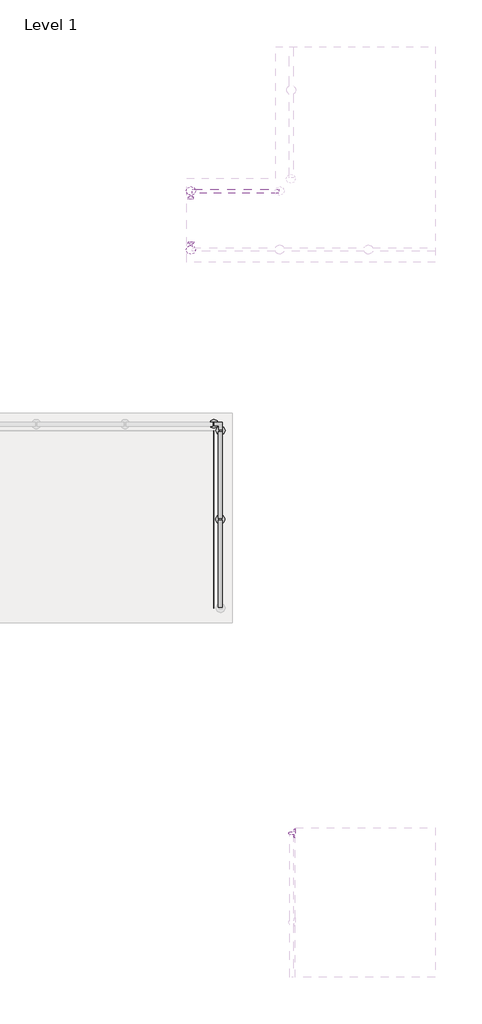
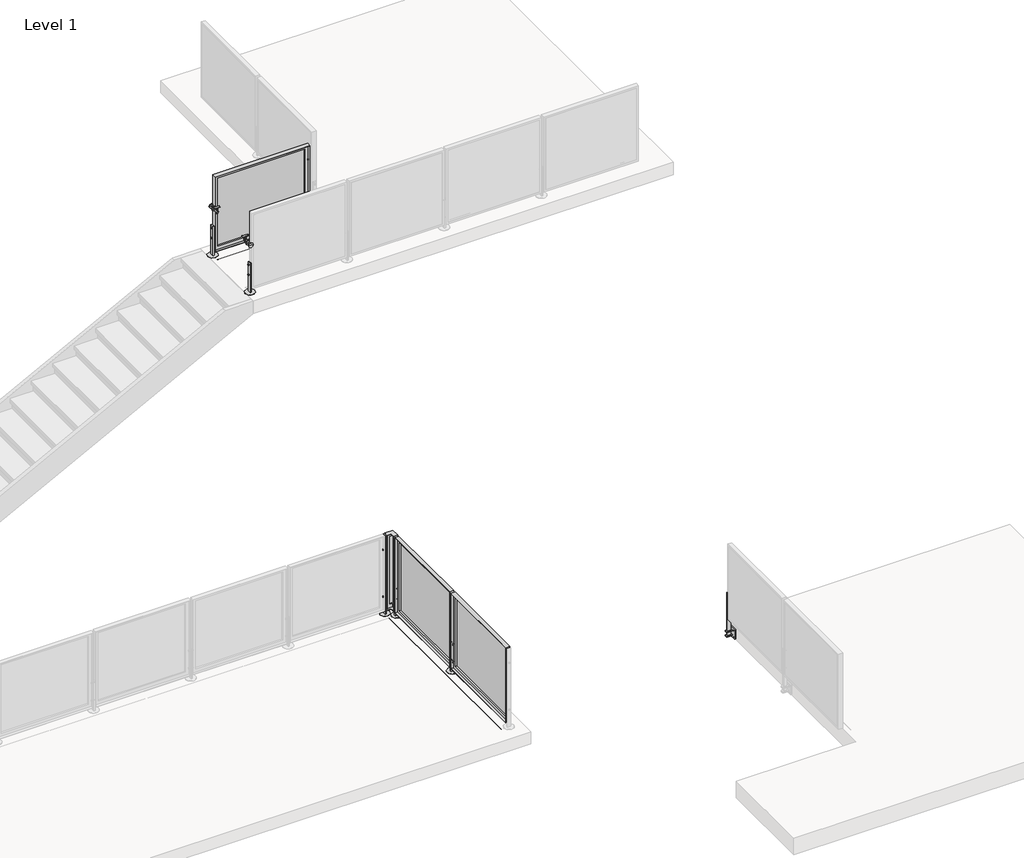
# One storey, part 30 of 37: 7 proxies, 3 railings.
"""IFC4 building model written with IfcOpenShell, lengths in millimetres."""

from ifc_helpers import new_model, si_unit, point, frame, frame_2d, origin, origin_with_axes, place, context, project, spatial, polyline, circle_curve, trimmed, segment, composite_curve, outline, extrude, faceted_brep, transform, mapped, element, save
from ifc_brep_helpers import plane_surface, cylinder_surface, advanced_brep
from components import baluster_end_post_viva_frame_top_mount_933f940f, baluster_end_post_viva_frame_top_mount_933cdb12, baluster_end_post_viva_frame_top_mount_welded_fascia_mount_f3869cb3, baluster_end_post_viva_frame_top_mount_stairs_5fb22de0, baluster_corner_panel_viva_frame_inside_standard_88f3c48e

model = new_model("IFC4")

# Units and contexts
model_context = context("Model", 3, world=origin())
ifc_project = project(units=[si_unit("LENGTHUNIT", "METRE", prefix="MILLI")], contexts=[model_context])

# Site, building, storey
site = spatial("IfcSite", under=ifc_project)
building = spatial("IfcBuilding", under=site)
storey = spatial("IfcBuildingStorey", under=building, Name="Level 1", Elevation=0.0)

# Proxies
placement = place(None, origin())
baluster_end_post_viva_frame_top_mount_shape = baluster_end_post_viva_frame_top_mount_933f940f(model_context)
element("IfcBuildingElementProxy", 1, Name="Baluster-End-Post-VIVA-FRAME-Top Mount : CORED INTO CONCRETE_TOP MOUNT FOLD_STRAIGHT", ObjectType="Baluster-End-Post-VIVA-FRAME-Top Mount : CORED INTO CONCRETE_TOP MOUNT FOLD_STRAIGHT", at=placement, inside=storey, context=model_context, shape_type="MappedRepresentation", body=[
    mapped(baluster_end_post_viva_frame_top_mount_shape, transform((-32693.4518242, 5919.2344262, -0.508), x_axis=(0.0, 1.0, 0.0), y_axis=(-1.0, 0.0, 0.0), z_axis=(0.0, 0.0, 1.0))),
])
element("IfcBuildingElementProxy", 2, Name="Baluster-End-Post-VIVA-FRAME-Top Mount : CORED INTO CONCRETE_TOP MOUNT FOLD_STRAIGHT", ObjectType="Baluster-End-Post-VIVA-FRAME-Top Mount : CORED INTO CONCRETE_TOP MOUNT FOLD_STRAIGHT", at=placement, inside=storey, context=model_context, shape_type="MappedRepresentation", body=[
    mapped(baluster_end_post_viva_frame_top_mount_shape, transform((-33016.8813244, 8605.5937722, 3047.492), x_axis=(1.0, 0.0, 0.0), y_axis=(0.0, 1.0, 0.0), z_axis=(0.0, 0.0, 1.0))),
])
element("IfcBuildingElementProxy", 3, Name="Baluster-End-Post-VIVA-FRAME-Top Mount : CORED INTO CONCRETE_TOP MOUNT FOLD_STRAIGHT", ObjectType="Baluster-End-Post-VIVA-FRAME-Top Mount : CORED INTO CONCRETE_TOP MOUNT FOLD_STRAIGHT", at=placement, inside=storey, context=model_context, shape_type="MappedRepresentation", body=[
    mapped(baluster_end_post_viva_frame_top_mount_shape, transform((-33016.8813244, 9246.7937722, 3047.492), x_axis=(-1.0, 0.0, 0.0), y_axis=(0.0, -1.0, 0.0), z_axis=(0.0, 0.0, 1.0))),
])
baluster_end_post_viva_frame_top_mount_2_shape = baluster_end_post_viva_frame_top_mount_933cdb12(model_context)
element("IfcBuildingElementProxy", 4, Name="Baluster-End-Post-VIVA-FRAME-Top Mount : CORED INTO CONCRETE_TOP MOUNT FOLD_STRAIGHT", ObjectType="Baluster-End-Post-VIVA-FRAME-Top Mount : CORED INTO CONCRETE_TOP MOUNT FOLD_STRAIGHT", at=placement, inside=storey, context=model_context, shape_type="MappedRepresentation", body=[
    mapped(baluster_end_post_viva_frame_top_mount_2_shape, transform((-32689.643347, 5915.4866335, -0.508), x_axis=(-1.0, 0.0, 0.0), y_axis=(0.0, -1.0, 0.0), z_axis=(0.0, 0.0, 1.0))),
])
baluster_end_post_viva_frame_top_mount_welded_fascia_mount_shape = baluster_end_post_viva_frame_top_mount_welded_fascia_mount_f3869cb3(model_context)
element("IfcBuildingElementProxy", 5, Name="Baluster-End-Post-VIVA-FRAME-Top Mount : WELDED Fascia MOUNT FOLD_STRAIGHT", ObjectType="Baluster-End-Post-VIVA-FRAME-Top Mount : WELDED Fascia MOUNT FOLD_STRAIGHT", at=placement, inside=storey, context=model_context, shape_type="MappedRepresentation", body=[
    mapped(baluster_end_post_viva_frame_top_mount_welded_fascia_mount_shape, transform((-31448.8776401, 156.9687275, 3047.492), x_axis=(0.0, -1.0, 0.0), y_axis=(1.0, 0.0, 0.0), z_axis=(0.0, 0.0, 1.0))),
])
baluster_end_post_viva_frame_top_mount_stairs_shape = baluster_end_post_viva_frame_top_mount_stairs_5fb22de0(model_context)
element("IfcBuildingElementProxy", 6, Name="Baluster-End-Post-VIVA-FRAME-Top Mount Stairs : CORED INTO CONCRETE_TOP MOUNT FRAME_STAIR", ObjectType="Baluster-End-Post-VIVA-FRAME-Top Mount Stairs : CORED INTO CONCRETE_TOP MOUNT FRAME_STAIR", at=placement, inside=storey, context=model_context, shape_type="MappedRepresentation", body=[
    mapped(baluster_end_post_viva_frame_top_mount_stairs_shape, transform((-33016.8813244, 8605.5937722, 3784.092), x_axis=(1.0, 0.0, 0.0), y_axis=(0.0, 1.0, 0.0), z_axis=(0.0, 0.0, 1.0))),
])
element("IfcBuildingElementProxy", 7, Name="Baluster-End-Post-VIVA-FRAME-Top Mount Stairs : CORED INTO CONCRETE_TOP MOUNT FRAME_STAIR", ObjectType="Baluster-End-Post-VIVA-FRAME-Top Mount Stairs : CORED INTO CONCRETE_TOP MOUNT FRAME_STAIR", at=placement, inside=storey, context=model_context, shape_type="MappedRepresentation", body=[
    mapped(baluster_end_post_viva_frame_top_mount_stairs_shape, transform((-33016.8813244, 9246.7937722, 3784.092), x_axis=(-1.0, 0.0, 0.0), y_axis=(0.0, -1.0, 0.0), z_axis=(0.0, 0.0, 1.0))),
])

# Railings
baluster_corner_panel_viva_frame_inside_standard_shape = baluster_corner_panel_viva_frame_inside_standard_88f3c48e(model_context)
element("IfcRailing", 8, ObjectType="Baluster-Corner-Panel-VIVA-FRAME : Inside_Standard", at=placement, inside=storey, context=model_context, shape_type="MappedRepresentation", body=[
    mapped(baluster_corner_panel_viva_frame_inside_standard_shape, transform((-32570.6414242, 6038.2970335, -25.654), x_axis=(-1.0, 0.0, 0.0), y_axis=(0.0, -1.0, 0.0), z_axis=(0.0, 0.0, 1.0))),
])
element("IfcRailing", 9, ObjectType="Metal-Panel-VIVA-FRAME-Top_Core-Straight", at=placement, inside=storey, context=model_context, shape_type="SolidModel", body=[
    extrude(outline(composite_curve([segment(trimmed(circle_curve(frame_2d((-0.254, -32693.4518242)), 0.254), [point((-0.254, -32693.7058242))], [point((-0.254, -32693.1978242))], False, "CARTESIAN"), True, "CONTINUOUS"), segment(trimmed(circle_curve(frame_2d((-0.254, -32693.4518242)), 0.254), [point((-0.254, -32693.1978242))], [point((-0.254, -32693.7058242))], False, "CARTESIAN"), True, "CONTINUOUS")], self_intersect=False)), frame((0.0, 3379.2344262, 0.0), z_axis=(0.0, 1.0, 0.0), x_axis=(0.0, 0.0, 1.0)), (0.0, 0.0, 1.0), 2540.0),
    extrude(outline(composite_curve([segment(trimmed(circle_curve(frame_2d((-0.254, -32693.4518242)), 0.254), [point((-0.254, -32693.7058242))], [point((-0.254, -32693.1978242))], False, "CARTESIAN"), True, "CONTINUOUS"), segment(trimmed(circle_curve(frame_2d((-0.254, -32693.4518242)), 0.254), [point((-0.254, -32693.1978242))], [point((-0.254, -32693.7058242))], False, "CARTESIAN"), True, "CONTINUOUS")], self_intersect=False)), frame((0.0, 3379.2344262, 0.0), z_axis=(0.0, 1.0, 0.0), x_axis=(0.0, 0.0, 1.0)), (0.0, 0.0, 1.0), 2540.0),
    extrude(outline(polyline([(-32570.6414242, 4608.4079693), (-32570.6414242, 3420.0608831), (-32573.6414242, 3420.0608831), (-32573.6414242, 4608.4079693), (-32570.6414242, 4608.4079693)])), frame((0.0, 0.0, 76.1959569), z_axis=(0.0, 0.0, 1.0), x_axis=(1.0, 0.0, 0.0)), (0.0, 0.0, 1.0), 990.5826861),
    faceted_brep([(-32570.6414242, 4633.8079693, 1092.1786431), (-32570.6414242, 3394.6608831, 1092.1786431), (-32570.6414242, 3394.6608831, 50.7959569), (-32570.6414242, 4633.8079693, 50.7959569), (-32570.6414242, 4608.4079693, 1066.7786431), (-32570.6414242, 4608.4079693, 76.1959569), (-32570.6414242, 3420.0608831, 76.1959569), (-32570.6414242, 3420.0608831, 1066.7786431), (-32573.6414242, 4608.4079693, 76.1959569), (-32573.6414242, 3420.0608831, 76.1959569), (-32573.6414242, 3420.0608831, 1066.7786431), (-32573.6414242, 4608.4079693, 1066.7786431), (-32624.4414242, 4627.8135693, 56.7903569), (-32624.4414242, 3400.6552831, 56.7903569), (-32593.6312242, 3400.6552831, 56.7903569), (-32593.6312242, 4627.8135693, 56.7903569), (-32624.4414242, 3400.6552831, 1086.1842431), (-32593.6312242, 3400.6552831, 1086.1842431), (-32593.6312242, 4627.8135693, 1086.1842431), (-32624.4414242, 4627.8135693, 1086.1842431), (-32624.4414242, 3394.6608831, 50.7959569), (-32624.4414242, 3394.6608831, 1092.1786431), (-32624.4414242, 4633.8079693, 1092.1786431), (-32624.4414242, 4633.8079693, 50.7959569), (-32573.6414242, 4583.0079693, 1041.3786431), (-32573.6414242, 4583.0079693, 101.5959569), (-32573.6414242, 3445.4608831, 101.5959569), (-32573.6414242, 3445.4608831, 1041.3786431), (-32593.6312242, 3445.4608831, 101.5959569), (-32593.6312242, 4583.0079693, 101.5959569), (-32593.6312242, 4583.0079693, 1041.3786431), (-32593.6312242, 3445.4608831, 1041.3786431)], [[[0, 1, 2, 3], [4, 5, 6, 7]], [[5, 8, 9, 6]], [[6, 9, 10, 7]], [[7, 10, 11, 4]], [[4, 11, 8, 5]], [[12, 13, 14, 15]], [[13, 16, 17, 14]], [[15, 18, 19, 12]], [[20, 21, 22, 23], [12, 19, 16, 13]], [[23, 22, 0, 3]], [[23, 3, 2, 20]], [[2, 1, 21, 20]], [[22, 21, 1, 0]], [[11, 10, 9, 8], [24, 25, 26, 27]], [[14, 17, 18, 15], [28, 29, 30, 31]], [[18, 17, 16, 19]], [[27, 31, 30, 24]], [[26, 28, 31, 27]], [[25, 29, 28, 26]], [[24, 30, 29, 25]]]),
    extrude(outline(composite_curve([segment(trimmed(circle_curve(frame_2d((-32597.5414242, 4649.2344262)), 65.8876), [point((-32531.6538242, 4649.2344262))], [point((-32663.4290242, 4649.2344262))], False, "CARTESIAN"), True, "CONTINUOUS"), segment(trimmed(circle_curve(frame_2d((-32597.5414242, 4649.2344262)), 65.8876), [point((-32663.4290242, 4649.2344262))], [point((-32531.6538242, 4649.2344262))], False, "CARTESIAN"), True, "CONTINUOUS")], self_intersect=False)), origin_with_axes(), (0.0, 0.0, 1.0), 2.9821299),
    advanced_brep(
    [(-32597.5414242, 4675.4218262, 130.1496), (-32597.5414242, 4675.4218262, 139.7), (-32597.5414242, 4675.4218262, 149.2504), (-32597.5414242, 4670.6466262, 130.1496), (-32597.5414242, 4670.6466262, 149.2504), (-32597.5414242, 4670.6466262, 134.9248), (-32597.5414242, 4670.6466262, 144.4752), (-32597.5414242, 4627.8222262, 134.9248), (-32597.5414242, 4627.8222262, 144.4752), (-32597.5414242, 4627.8222262, 130.1496), (-32597.5414242, 4627.8222262, 149.2504), (-32597.5414242, 4623.0470262, 130.1496), (-32597.5414242, 4623.0470262, 149.2504), (-32597.5414242, 4623.0470262, 139.7)],
    [
        (0, 1),
        (1, 2),
        (2, 0, circle_curve(frame((-32597.5414242, 4675.4218262, 139.7), z_axis=(0.0, 1.0, 0.0), x_axis=(0.0, 0.0, 1.0)), 9.5504)),
        (0, 2, circle_curve(frame((-32597.5414242, 4675.4218262, 139.7), z_axis=(0.0, 1.0, 0.0), x_axis=(0.0, 0.0, 1.0)), 9.5504)),
        (3, 0),
        (2, 4),
        (4, 3, circle_curve(frame((-32597.5414242, 4670.6466262, 139.7), z_axis=(0.0, 1.0, 0.0), x_axis=(0.0, 0.0, 1.0)), 9.5504)),
        (3, 4, circle_curve(frame((-32597.5414242, 4670.6466262, 139.7), z_axis=(0.0, 1.0, 0.0), x_axis=(0.0, 0.0, 1.0)), 9.5504)),
        (5, 3),
        (4, 6),
        (6, 5, circle_curve(frame((-32597.5414242, 4670.6466262, 139.7), z_axis=(0.0, 1.0, 0.0), x_axis=(0.0, 0.0, 1.0)), 4.7752)),
        (5, 6, circle_curve(frame((-32597.5414242, 4670.6466262, 139.7), z_axis=(0.0, 1.0, 0.0), x_axis=(0.0, 0.0, 1.0)), 4.7752)),
        (7, 5),
        (6, 8),
        (8, 7, circle_curve(frame((-32597.5414242, 4627.8222262, 139.7), z_axis=(0.0, 1.0, 0.0), x_axis=(0.0, 0.0, 1.0)), 4.7752)),
        (7, 8, circle_curve(frame((-32597.5414242, 4627.8222262, 139.7), z_axis=(0.0, 1.0, 0.0), x_axis=(0.0, 0.0, 1.0)), 4.7752)),
        (9, 7),
        (8, 10),
        (10, 9, circle_curve(frame((-32597.5414242, 4627.8222262, 139.7), z_axis=(0.0, 1.0, 0.0), x_axis=(0.0, 0.0, 1.0)), 9.5504)),
        (9, 10, circle_curve(frame((-32597.5414242, 4627.8222262, 139.7), z_axis=(0.0, 1.0, 0.0), x_axis=(0.0, 0.0, 1.0)), 9.5504)),
        (11, 9),
        (10, 12),
        (12, 11, circle_curve(frame((-32597.5414242, 4623.0470262, 139.7), z_axis=(0.0, 1.0, 0.0), x_axis=(0.0, 0.0, 1.0)), 9.5504)),
        (11, 12, circle_curve(frame((-32597.5414242, 4623.0470262, 139.7), z_axis=(0.0, 1.0, 0.0), x_axis=(0.0, 0.0, 1.0)), 9.5504)),
        (13, 11),
        (12, 13),
    ],
    [
        plane_surface(frame((-32597.5414242, 4675.4218262, 139.7), z_axis=(0.0, 1.0, 0.0), x_axis=(0.0, 0.0, 1.0))),
        cylinder_surface(frame((-32597.5414242, 8067.0021833, 139.7), z_axis=(0.0, -1.0, 0.0), x_axis=(0.0, 0.0, 1.0)), 9.5504),
        plane_surface(frame((-32597.5414242, 4670.6466262, 139.7), z_axis=(0.0, -1.0, 0.0), x_axis=(0.0, 0.0, 1.0))),
        cylinder_surface(frame((-32597.5414242, 8067.0021833, 139.7), z_axis=(0.0, -1.0, 0.0), x_axis=(0.0, 0.0, 1.0)), 4.7752),
        plane_surface(frame((-32597.5414242, 4627.8222262, 139.7), z_axis=(0.0, 1.0, 0.0), x_axis=(0.0, 0.0, 1.0))),
        plane_surface(frame((-32597.5414242, 4623.0470262, 139.7), z_axis=(0.0, -1.0, 0.0), x_axis=(0.0, 0.0, 1.0))),
    ],
    [
        (0, [[1, 2, 3]]),
        (0, [[-2, -1, 4]]),
        (1, [[5, -3, 6, 7]]),
        (1, [[-6, -4, -5, 8]]),
        (2, [[9, -7, 10, 11]]),
        (2, [[-10, -8, -9, 12]]),
        (3, [[13, -11, 14, 15]]),
        (3, [[-14, -12, -13, 16]]),
        (4, [[17, -15, 18, 19]]),
        (4, [[-18, -16, -17, 20]]),
        (1, [[21, -19, 22, 23]]),
        (1, [[-22, -20, -21, 24]]),
        (5, [[25, -23, 26]]),
        (5, [[-26, -24, -25]]),
    ],
),
    advanced_brep(
    [(-32597.5414242, 4675.4218262, 371.4496), (-32597.5414242, 4675.4218262, 381.0), (-32597.5414242, 4675.4218262, 390.5504), (-32597.5414242, 4670.6466262, 371.4496), (-32597.5414242, 4670.6466262, 390.5504), (-32597.5414242, 4670.6466262, 376.2248), (-32597.5414242, 4670.6466262, 385.7752), (-32597.5414242, 4627.8222262, 376.2248), (-32597.5414242, 4627.8222262, 385.7752), (-32597.5414242, 4627.8222262, 371.4496), (-32597.5414242, 4627.8222262, 390.5504), (-32597.5414242, 4623.0470262, 371.4496), (-32597.5414242, 4623.0470262, 390.5504), (-32597.5414242, 4623.0470262, 381.0)],
    [
        (0, 1),
        (1, 2),
        (2, 0, circle_curve(frame((-32597.5414242, 4675.4218262, 381.0), z_axis=(0.0, 1.0, 0.0), x_axis=(0.0, 0.0, 1.0)), 9.5504)),
        (0, 2, circle_curve(frame((-32597.5414242, 4675.4218262, 381.0), z_axis=(0.0, 1.0, 0.0), x_axis=(0.0, 0.0, 1.0)), 9.5504)),
        (3, 0),
        (2, 4),
        (4, 3, circle_curve(frame((-32597.5414242, 4670.6466262, 381.0), z_axis=(0.0, 1.0, 0.0), x_axis=(0.0, 0.0, 1.0)), 9.5504)),
        (3, 4, circle_curve(frame((-32597.5414242, 4670.6466262, 381.0), z_axis=(0.0, 1.0, 0.0), x_axis=(0.0, 0.0, 1.0)), 9.5504)),
        (5, 3),
        (4, 6),
        (6, 5, circle_curve(frame((-32597.5414242, 4670.6466262, 381.0), z_axis=(0.0, 1.0, 0.0), x_axis=(0.0, 0.0, 1.0)), 4.7752)),
        (5, 6, circle_curve(frame((-32597.5414242, 4670.6466262, 381.0), z_axis=(0.0, 1.0, 0.0), x_axis=(0.0, 0.0, 1.0)), 4.7752)),
        (7, 5),
        (6, 8),
        (8, 7, circle_curve(frame((-32597.5414242, 4627.8222262, 381.0), z_axis=(0.0, 1.0, 0.0), x_axis=(0.0, 0.0, 1.0)), 4.7752)),
        (7, 8, circle_curve(frame((-32597.5414242, 4627.8222262, 381.0), z_axis=(0.0, 1.0, 0.0), x_axis=(0.0, 0.0, 1.0)), 4.7752)),
        (9, 7),
        (8, 10),
        (10, 9, circle_curve(frame((-32597.5414242, 4627.8222262, 381.0), z_axis=(0.0, 1.0, 0.0), x_axis=(0.0, 0.0, 1.0)), 9.5504)),
        (9, 10, circle_curve(frame((-32597.5414242, 4627.8222262, 381.0), z_axis=(0.0, 1.0, 0.0), x_axis=(0.0, 0.0, 1.0)), 9.5504)),
        (11, 9),
        (10, 12),
        (12, 11, circle_curve(frame((-32597.5414242, 4623.0470262, 381.0), z_axis=(0.0, 1.0, 0.0), x_axis=(0.0, 0.0, 1.0)), 9.5504)),
        (11, 12, circle_curve(frame((-32597.5414242, 4623.0470262, 381.0), z_axis=(0.0, 1.0, 0.0), x_axis=(0.0, 0.0, 1.0)), 9.5504)),
        (13, 11),
        (12, 13),
    ],
    [
        plane_surface(frame((-32597.5414242, 4675.4218262, 381.0), z_axis=(0.0, 1.0, 0.0), x_axis=(0.0, 0.0, 1.0))),
        cylinder_surface(frame((-32597.5414242, 8067.0021833, 381.0), z_axis=(0.0, -1.0, 0.0), x_axis=(0.0, 0.0, 1.0)), 9.5504),
        plane_surface(frame((-32597.5414242, 4670.6466262, 381.0), z_axis=(0.0, -1.0, 0.0), x_axis=(0.0, 0.0, 1.0))),
        cylinder_surface(frame((-32597.5414242, 8067.0021833, 381.0), z_axis=(0.0, -1.0, 0.0), x_axis=(0.0, 0.0, 1.0)), 4.7752),
        plane_surface(frame((-32597.5414242, 4627.8222262, 381.0), z_axis=(0.0, 1.0, 0.0), x_axis=(0.0, 0.0, 1.0))),
        plane_surface(frame((-32597.5414242, 4623.0470262, 381.0), z_axis=(0.0, -1.0, 0.0), x_axis=(0.0, 0.0, 1.0))),
    ],
    [
        (0, [[1, 2, 3]]),
        (0, [[-2, -1, 4]]),
        (1, [[5, -3, 6, 7]]),
        (1, [[-6, -4, -5, 8]]),
        (2, [[9, -7, 10, 11]]),
        (2, [[-10, -8, -9, 12]]),
        (3, [[13, -11, 14, 15]]),
        (3, [[-14, -12, -13, 16]]),
        (4, [[17, -15, 18, 19]]),
        (4, [[-18, -16, -17, 20]]),
        (1, [[21, -19, 22, 23]]),
        (1, [[-22, -20, -21, 24]]),
        (5, [[25, -23, 26]]),
        (5, [[-26, -24, -25]]),
    ],
),
    extrude(outline(polyline([(-32619.7664242, 4657.1740178), (-32575.3164242, 4657.1740178), (-32575.3164242, 4641.2948345), (-32619.7664242, 4641.2948345), (-32619.7664242, 4657.1740178)])), frame((0.0, 0.0, -101.6), z_axis=(0.0, 0.0, 1.0), x_axis=(1.0, 0.0, 0.0)), (0.0, 0.0, 1.0), 508.0),
    extrude(outline(polyline([(-32570.6414242, 5878.4079693), (-32570.6414242, 4690.0608831), (-32573.6414242, 4690.0608831), (-32573.6414242, 5878.4079693), (-32570.6414242, 5878.4079693)])), frame((0.0, 0.0, 76.1959569), z_axis=(0.0, 0.0, 1.0), x_axis=(1.0, 0.0, 0.0)), (0.0, 0.0, 1.0), 990.5826861),
    faceted_brep([(-32570.6414242, 5903.8079693, 1092.1786431), (-32570.6414242, 4664.6608831, 1092.1786431), (-32570.6414242, 4664.6608831, 50.7959569), (-32570.6414242, 5903.8079693, 50.7959569), (-32570.6414242, 5878.4079693, 1066.7786431), (-32570.6414242, 5878.4079693, 76.1959569), (-32570.6414242, 4690.0608831, 76.1959569), (-32570.6414242, 4690.0608831, 1066.7786431), (-32573.6414242, 5878.4079693, 76.1959569), (-32573.6414242, 4690.0608831, 76.1959569), (-32573.6414242, 4690.0608831, 1066.7786431), (-32573.6414242, 5878.4079693, 1066.7786431), (-32624.4414242, 5897.8135693, 56.7903569), (-32624.4414242, 4670.6552831, 56.7903569), (-32593.6312242, 4670.6552831, 56.7903569), (-32593.6312242, 5897.8135693, 56.7903569), (-32624.4414242, 4670.6552831, 1086.1842431), (-32593.6312242, 4670.6552831, 1086.1842431), (-32593.6312242, 5897.8135693, 1086.1842431), (-32624.4414242, 5897.8135693, 1086.1842431), (-32624.4414242, 4664.6608831, 50.7959569), (-32624.4414242, 4664.6608831, 1092.1786431), (-32624.4414242, 5903.8079693, 1092.1786431), (-32624.4414242, 5903.8079693, 50.7959569), (-32573.6414242, 5853.0079693, 1041.3786431), (-32573.6414242, 5853.0079693, 101.5959569), (-32573.6414242, 4715.4608831, 101.5959569), (-32573.6414242, 4715.4608831, 1041.3786431), (-32593.6312242, 4715.4608831, 101.5959569), (-32593.6312242, 5853.0079693, 101.5959569), (-32593.6312242, 5853.0079693, 1041.3786431), (-32593.6312242, 4715.4608831, 1041.3786431)], [[[0, 1, 2, 3], [4, 5, 6, 7]], [[5, 8, 9, 6]], [[6, 9, 10, 7]], [[7, 10, 11, 4]], [[4, 11, 8, 5]], [[12, 13, 14, 15]], [[13, 16, 17, 14]], [[15, 18, 19, 12]], [[20, 21, 22, 23], [12, 19, 16, 13]], [[23, 22, 0, 3]], [[23, 3, 2, 20]], [[2, 1, 21, 20]], [[22, 21, 1, 0]], [[11, 10, 9, 8], [24, 25, 26, 27]], [[14, 17, 18, 15], [28, 29, 30, 31]], [[18, 17, 16, 19]], [[27, 31, 30, 24]], [[26, 28, 31, 27]], [[25, 29, 28, 26]], [[24, 30, 29, 25]]]),
])
element("IfcRailing", 10, ObjectType="Metal-Panel-VIVA-FRAME-Top_Core-Straight", at=placement, inside=storey, context=model_context, shape_type="SolidModel", body=[
    extrude(outline(composite_curve([segment(trimmed(circle_curve(frame_2d((9246.7937722, 3047.746)), 0.254), [point((9246.5397722, 3047.746))], [point((9247.0477722, 3047.746))], False, "CARTESIAN"), True, "CONTINUOUS"), segment(trimmed(circle_curve(frame_2d((9246.7937722, 3047.746)), 0.254), [point((9247.0477722, 3047.746))], [point((9246.5397722, 3047.746))], False, "CARTESIAN"), True, "CONTINUOUS")], self_intersect=False)), frame((-33016.8813244, 0.0, 0.0), z_axis=(1.0, 0.0, 0.0), x_axis=(0.0, 1.0, 0.0)), (0.0, 0.0, 1.0), 1270.0),
    extrude(outline(composite_curve([segment(trimmed(circle_curve(frame_2d((9246.7937722, 3047.746)), 0.254), [point((9246.5397722, 3047.746))], [point((9247.0477722, 3047.746))], False, "CARTESIAN"), True, "CONTINUOUS"), segment(trimmed(circle_curve(frame_2d((9246.7937722, 3047.746)), 0.254), [point((9247.0477722, 3047.746))], [point((9246.5397722, 3047.746))], False, "CARTESIAN"), True, "CONTINUOUS")], self_intersect=False)), frame((-33016.8813244, 0.0, 0.0), z_axis=(1.0, 0.0, 0.0), x_axis=(0.0, 1.0, 0.0)), (0.0, 0.0, 1.0), 1270.0),
    extrude(outline(polyline([(-32976.0548675, 9369.6041722), (-31787.7077814, 9369.6041722), (-31787.7077814, 9366.6041722), (-32976.0548675, 9366.6041722), (-32976.0548675, 9369.6041722)])), frame((0.0, 0.0, 3124.1959569), z_axis=(0.0, 0.0, 1.0), x_axis=(1.0, 0.0, 0.0)), (0.0, 0.0, 1.0), 990.5826861),
    faceted_brep([(-33001.4548675, 9369.6041722, 4140.1786431), (-31762.3077814, 9369.6041722, 4140.1786431), (-31762.3077814, 9369.6041722, 3098.7959569), (-33001.4548675, 9369.6041722, 3098.7959569), (-32976.0548675, 9369.6041722, 4114.7786431), (-32976.0548675, 9369.6041722, 3124.1959569), (-31787.7077814, 9369.6041722, 3124.1959569), (-31787.7077814, 9369.6041722, 4114.7786431), (-32976.0548675, 9366.6041722, 3124.1959569), (-31787.7077814, 9366.6041722, 3124.1959569), (-31787.7077814, 9366.6041722, 4114.7786431), (-32976.0548675, 9366.6041722, 4114.7786431), (-32995.4604675, 9315.8041722, 3104.7903569), (-31768.3021814, 9315.8041722, 3104.7903569), (-31768.3021814, 9346.6143722, 3104.7903569), (-32995.4604675, 9346.6143722, 3104.7903569), (-31768.3021814, 9315.8041722, 4134.1842431), (-31768.3021814, 9346.6143722, 4134.1842431), (-32995.4604675, 9346.6143722, 4134.1842431), (-32995.4604675, 9315.8041722, 4134.1842431), (-31762.3077814, 9315.8041722, 3098.7959569), (-31762.3077814, 9315.8041722, 4140.1786431), (-33001.4548675, 9315.8041722, 4140.1786431), (-33001.4548675, 9315.8041722, 3098.7959569), (-32950.6548675, 9366.6041722, 4089.3786431), (-32950.6548675, 9366.6041722, 3149.5959569), (-31813.1077814, 9366.6041722, 3149.5959569), (-31813.1077814, 9366.6041722, 4089.3786431), (-31813.1077814, 9346.6143722, 3149.5959569), (-32950.6548675, 9346.6143722, 3149.5959569), (-32950.6548675, 9346.6143722, 4089.3786431), (-31813.1077814, 9346.6143722, 4089.3786431)], [[[0, 1, 2, 3], [4, 5, 6, 7]], [[5, 8, 9, 6]], [[6, 9, 10, 7]], [[7, 10, 11, 4]], [[4, 11, 8, 5]], [[12, 13, 14, 15]], [[13, 16, 17, 14]], [[15, 18, 19, 12]], [[20, 21, 22, 23], [12, 19, 16, 13]], [[23, 22, 0, 3]], [[23, 3, 2, 20]], [[2, 1, 21, 20]], [[22, 21, 1, 0]], [[11, 10, 9, 8], [24, 25, 26, 27]], [[14, 17, 18, 15], [28, 29, 30, 31]], [[18, 17, 16, 19]], [[27, 31, 30, 24]], [[26, 28, 31, 27]], [[25, 29, 28, 26]], [[24, 30, 29, 25]]]),
])

save(model, "model.ifc")
